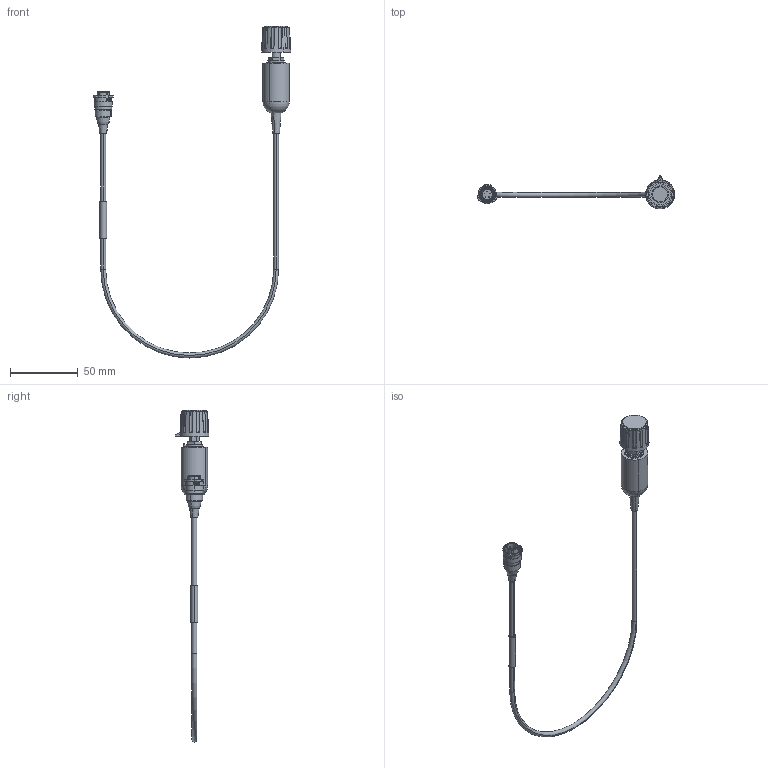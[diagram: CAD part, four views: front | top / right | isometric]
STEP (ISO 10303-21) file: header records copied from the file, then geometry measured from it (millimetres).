
FILE_DESCRIPTION(('CATIA V5 STEP Exchange'),'2;1');
FILE_NAME('Z:\00_Public\Jesus_Share\Florian support CAD\Knob Switch\Switch_Knob.stp','2014-04-04T11:27:10+00:00',('none'),('none'),'CATIA Version 5 Release 19 SP 9 (IN-10)','CATIA V5 STEP AP214','none');
FILE_SCHEMA(('AUTOMOTIVE_DESIGN { 1 0 10303 214 1 1 1 1 }'));
Length unit declared in the file: millimetre
Products named in the file (13): Switch_Knob; Switch; Boot; Washer_Tab; Bolt_2,45t; Knob; Washer_Small; Flathead_Screw; Cap; Screw_Socket_Tapered; Kabelgang_400; Formteil_204W221-25; ASL 6_06_05_PX-HE
Assembly tree (12 placements, depth 2):
  Switch_Knob
    Switch
    Boot
    Washer_Tab
    Bolt_2,45t
    Knob
    Washer_Small
    Flathead_Screw
    Cap
    Screw_Socket_Tapered
    Kabelgang_400
    Formteil_204W221-25
    ASL 6_06_05_PX-HE
Bounding box: 145.36 x 25 x 244.55 mm (x, y, z)
Volume: 21497.3 mm3; surface area: 18871.7 mm2
Topology: 12 solids, 12 shells, 444 faces, 2109 edges, 1707 vertices
Faces by surface type: cylinder 190, plane 164, torus 36, revolution 23, cone 16, sphere 10, bspline 5
Entity records: 24003 total; most frequent: CARTESIAN_POINT 8228, ORIENTED_EDGE 4198, EDGE_CURVE 2099, VERTEX_POINT 1707, B_SPLINE_CURVE_WITH_KNOTS 1434, DIRECTION 1367, AXIS2_PLACEMENT_3D 680, EDGE_LOOP 492
